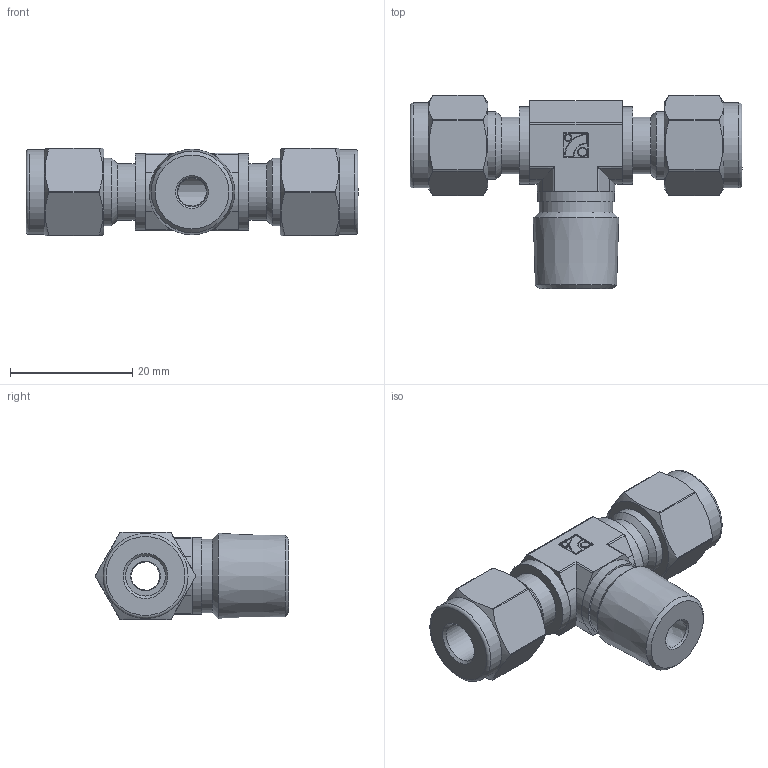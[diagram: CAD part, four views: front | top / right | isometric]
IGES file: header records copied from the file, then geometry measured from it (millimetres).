
Global section: file name: No Iges File Name specified; native system: Autodesk Inventor 2012; preprocessor: AutoDesk Inventor Iges Exporter R2012; author: 硅己绕,, ; organization: 11; date: 20150815.155134; units: millimetre
Bounding box: 54.29 x 31.6 x 14.3 mm (x, y, z)
Volume: 8248.3 mm3; surface area: 4976.1 mm2
Topology: 1 solids, 1 shells, 150 faces, 343 edges, 206 vertices
Faces by surface type: cylinder 50, plane 47, revolution 30, torus 10, cone 9, sphere 4
Full cylindrical faces by diameter (mm): 1.08 x1, 1.44 x1, 9.3 x2, 11.112 x2, 12 x1, 12.6 x3, 13.9 x2
